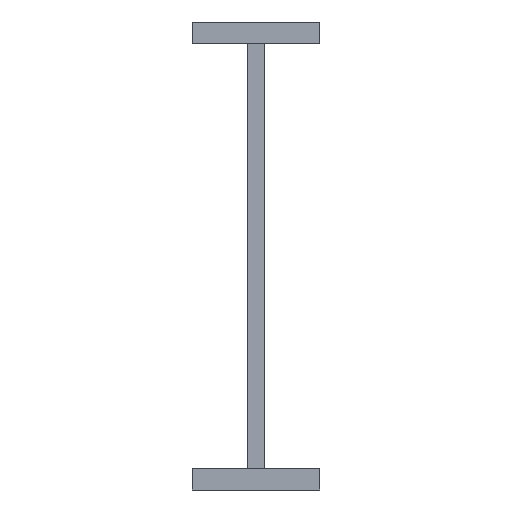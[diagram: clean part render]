
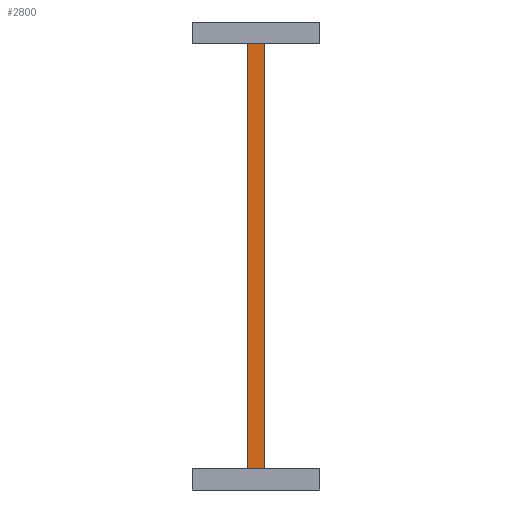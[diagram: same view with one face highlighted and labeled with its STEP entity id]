
A CAD part, left-side view. The second image highlights one B-rep face of the part: STEP entity #2800.
In plain terms, the highlighted planar face has unit normal (-1, 0, 0).
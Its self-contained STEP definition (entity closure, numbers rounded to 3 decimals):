
#60=CARTESIAN_POINT('',(0.,4.,0.));
#70=DIRECTION('',(0.,-1.,0.));
#80=VECTOR('',#70,1.);
#90=LINE('',#60,#80);
#100=CARTESIAN_POINT('',(0.,4.,0.));
#110=VERTEX_POINT('',#100);
#120=CARTESIAN_POINT('',(0.,0.,0.));
#130=VERTEX_POINT('',#120);
#140=EDGE_CURVE('',#110,#130,#90,.T.);
#520=CARTESIAN_POINT('',(0.,4.,100.));
#530=VERTEX_POINT('',#520);
#680=CARTESIAN_POINT('',(0.,0.,100.));
#690=VERTEX_POINT('',#680);
#720=CARTESIAN_POINT('',(0.,0.,100.));
#730=DIRECTION('',(0.,-1.,0.));
#740=VECTOR('',#730,1.);
#750=LINE('',#720,#740);
#760=EDGE_CURVE('',#530,#690,#750,.T.);
#1100=CARTESIAN_POINT('',(0.,4.,0.));
#1110=DIRECTION('',(0.,0.,1.));
#1120=VECTOR('',#1110,1.);
#1130=LINE('',#1100,#1120);
#1140=EDGE_CURVE('',#110,#530,#1130,.T.);
#2640=CARTESIAN_POINT('',(0.,0.,0.));
#2650=DIRECTION('',(-1.,0.,0.));
#2660=DIRECTION('',(0.,1.,0.));
#2670=AXIS2_PLACEMENT_3D('',#2640,#2650,#2660);
#2680=PLANE('',#2670);
#2690=ORIENTED_EDGE('',*,*,#1140,.F.);
#2700=ORIENTED_EDGE('',*,*,#760,.F.);
#2710=CARTESIAN_POINT('',(0.,0.,0.));
#2720=DIRECTION('',(0.,0.,1.));
#2730=VECTOR('',#2720,1.);
#2740=LINE('',#2710,#2730);
#2750=EDGE_CURVE('',#130,#690,#2740,.T.);
#2760=ORIENTED_EDGE('',*,*,#2750,.T.);
#2770=ORIENTED_EDGE('',*,*,#140,.T.);
#2780=EDGE_LOOP('',(#2770,#2760,#2700,#2690));
#2790=FACE_OUTER_BOUND('',#2780,.T.);
#2800=ADVANCED_FACE('',(#2790),#2680,.T.);
